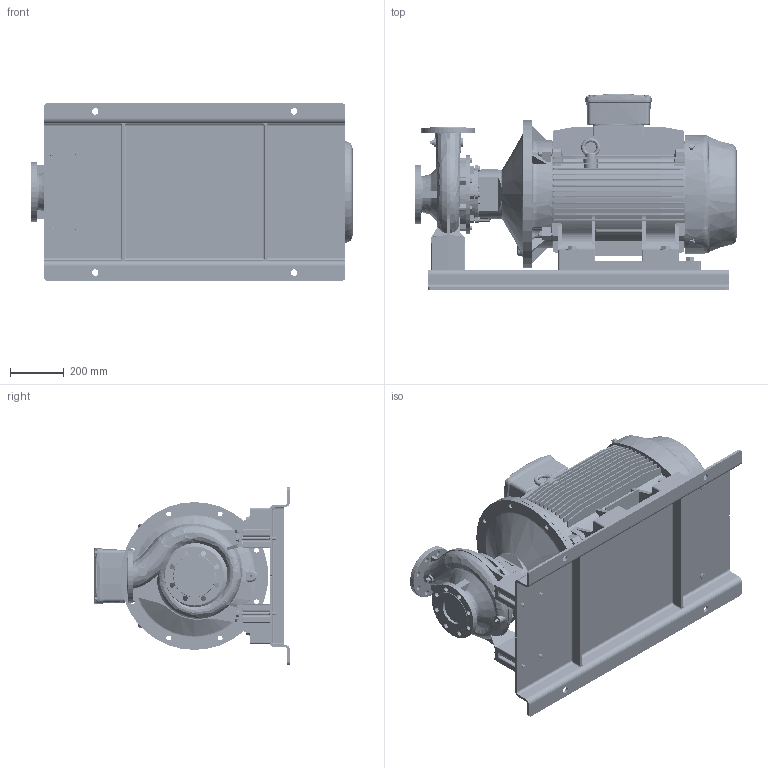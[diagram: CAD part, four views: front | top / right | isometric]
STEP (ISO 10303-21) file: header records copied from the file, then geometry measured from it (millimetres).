
FILE_DESCRIPTION (( 'STEP AP214' ), '1' );
FILE_NAME ('GSD2 80-200_55 & 75_(250SM)_W21_BP.STEP', '2024-08-02T05:47:50', ( '' ), ( '' ), 'SwSTEP 2.0', 'SolidWorks 2019', '' );
FILE_SCHEMA (( 'AUTOMOTIVE_DESIGN' ));
Length unit declared in the file: millimetre
Products named in the file (20): CGS11-5311_2_3_4_5_CGS11-5315; 80-200-250S_M_______; Parametric bolt_SFT-A417B; 250S_M2P IE3_W21T_B35; Parametric bolt and washer_SFT-A337B; A407B Bolt_407; Parametric bolt and washer_SFT-A417B; 100x30 - CGSDA-5291; Parametric bolt_SFT-A337B; CGS11-5311_2_3_4_5_CGS11-5314; Parametric Flat Washer_M20; GSD2  80-200_55 & 75_(250SM)_W21_BP; Parametric Flat Washer_M12; N8S3 GSDA-833 F1-1832957-00
Assembly tree (39 placements, depth 3):
  GSD2  80-200_55 & 75_(250SM)_W21_BP
    80-200-250S_M_______
    N8S3 GSDA-833 F1-1832957-00
    100x30 - CGSDA-5291  x2
    CGS11-5311_2_3_4_5_CGS11-5315  x4
    CGS11-5311_2_3_4_5_CGS11-5314  x2
    250S_M2P IE3_W21T_B35
    A407B Bolt_407  x2
    Parametric Flat Washer_M20  x2
    Parametric bolt and washer_SFT-A417B
      Parametric bolt_SFT-A417B
      Parametric Flat Washer_M20
    Parametric bolt and washer_SFT-A417B
      Parametric bolt_SFT-A417B
      Parametric Flat Washer_M20
    Parametric bolt and washer_SFT-A417B
      Parametric bolt_SFT-A417B
      Parametric Flat Washer_M20
    Parametric bolt and washer_SFT-A417B
      Parametric bolt_SFT-A417B
      Parametric Flat Washer_M20
    Parametric bolt and washer_SFT-A337B
      Parametric bolt_SFT-A337B
      Parametric Flat Washer_M12
    Parametric bolt and washer_SFT-A337B
      Parametric bolt_SFT-A337B
      Parametric Flat Washer_M12
    Parametric bolt and washer_SFT-A337B
      Parametric bolt_SFT-A337B
      Parametric Flat Washer_M12
    Parametric bolt and washer_SFT-A337B
      Parametric bolt_SFT-A337B
      Parametric Flat Washer_M12
Bounding box: 1200.5 x 728 x 660 mm (x, y, z)
Volume: 149597472.6 mm3; surface area: 7351870.3 mm2
Topology: 38 solids, 43 shells, 4337 faces, 11466 edges, 7332 vertices
Faces by surface type: plane 1741, cylinder 1516, cone 465, torus 318, bspline 281, sphere 16
Entity records: 167895 total; most frequent: CARTESIAN_POINT 77975, ORIENTED_EDGE 19612, DIRECTION 17848, EDGE_CURVE 9806, AXIS2_PLACEMENT_3D 6554, VERTEX_POINT 6253, LINE 4740, VECTOR 4740
